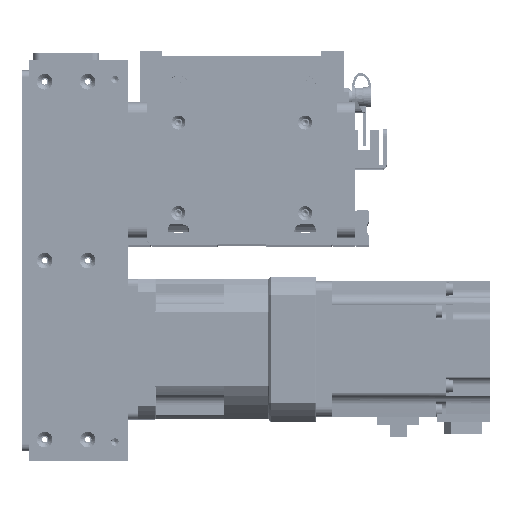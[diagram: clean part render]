
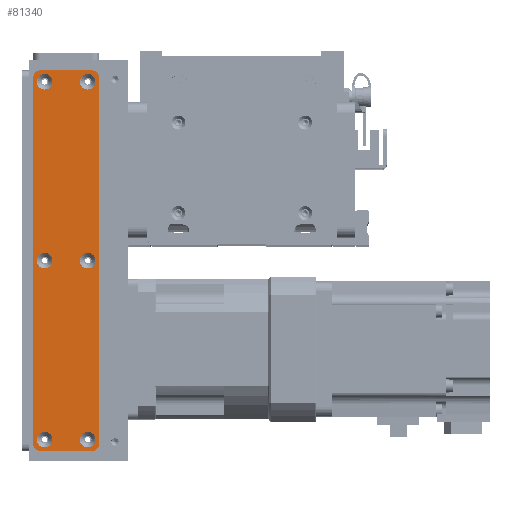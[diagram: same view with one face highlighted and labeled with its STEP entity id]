
A CAD part, top view. The second image highlights one B-rep face of the part: STEP entity #81340.
In plain terms, the highlighted planar face has unit normal (0, 0, 1).
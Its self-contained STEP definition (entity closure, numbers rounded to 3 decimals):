
#3017=FACE_BOUND('',#12189,.T.);
#3018=FACE_BOUND('',#12190,.T.);
#3019=FACE_BOUND('',#12191,.T.);
#3020=FACE_BOUND('',#12192,.T.);
#3021=FACE_BOUND('',#12193,.T.);
#3022=FACE_BOUND('',#12194,.T.);
#7247=FACE_OUTER_BOUND('',#12188,.T.);
#12188=EDGE_LOOP('',(#74109,#74110,#74111,#74112,#74113,#74114,#74115,#74116));
#12189=EDGE_LOOP('',(#74117));
#12190=EDGE_LOOP('',(#74118));
#12191=EDGE_LOOP('',(#74119));
#12192=EDGE_LOOP('',(#74120));
#12193=EDGE_LOOP('',(#74121));
#12194=EDGE_LOOP('',(#74122));
#14366=CIRCLE('',#88570,3.45);
#14369=CIRCLE('',#88575,3.45);
#14372=CIRCLE('',#88580,3.45);
#14375=CIRCLE('',#88585,3.45);
#14378=CIRCLE('',#88590,3.45);
#14381=CIRCLE('',#88595,3.45);
#14388=CIRCLE('',#88605,3.);
#14389=CIRCLE('',#88608,3.);
#14390=CIRCLE('',#88611,3.);
#14391=CIRCLE('',#88614,3.);
#23203=LINE('',#137914,#32024);
#23206=LINE('',#137922,#32027);
#23209=LINE('',#137930,#32030);
#23212=LINE('',#137937,#32033);
#32024=VECTOR('',#110628,10.);
#32027=VECTOR('',#110637,10.);
#32030=VECTOR('',#110646,10.);
#32033=VECTOR('',#110655,10.);
#39652=VERTEX_POINT('',#137830);
#39655=VERTEX_POINT('',#137840);
#39658=VERTEX_POINT('',#137850);
#39661=VERTEX_POINT('',#137860);
#39664=VERTEX_POINT('',#137870);
#39667=VERTEX_POINT('',#137880);
#39678=VERTEX_POINT('',#137907);
#39679=VERTEX_POINT('',#137909);
#39680=VERTEX_POINT('',#137913);
#39681=VERTEX_POINT('',#137917);
#39682=VERTEX_POINT('',#137921);
#39683=VERTEX_POINT('',#137925);
#39684=VERTEX_POINT('',#137929);
#39685=VERTEX_POINT('',#137933);
#51111=EDGE_CURVE('',#39652,#39652,#14366,.T.);
#51116=EDGE_CURVE('',#39655,#39655,#14369,.T.);
#51121=EDGE_CURVE('',#39658,#39658,#14372,.T.);
#51126=EDGE_CURVE('',#39661,#39661,#14375,.T.);
#51131=EDGE_CURVE('',#39664,#39664,#14378,.T.);
#51136=EDGE_CURVE('',#39667,#39667,#14381,.T.);
#51150=EDGE_CURVE('',#39679,#39678,#14388,.T.);
#51152=EDGE_CURVE('',#39680,#39679,#23203,.T.);
#51154=EDGE_CURVE('',#39681,#39680,#14389,.T.);
#51156=EDGE_CURVE('',#39682,#39681,#23206,.T.);
#51158=EDGE_CURVE('',#39683,#39682,#14390,.T.);
#51160=EDGE_CURVE('',#39684,#39683,#23209,.T.);
#51162=EDGE_CURVE('',#39685,#39684,#14391,.T.);
#51164=EDGE_CURVE('',#39678,#39685,#23212,.T.);
#74109=ORIENTED_EDGE('',*,*,#51164,.T.);
#74110=ORIENTED_EDGE('',*,*,#51162,.T.);
#74111=ORIENTED_EDGE('',*,*,#51160,.T.);
#74112=ORIENTED_EDGE('',*,*,#51158,.T.);
#74113=ORIENTED_EDGE('',*,*,#51156,.T.);
#74114=ORIENTED_EDGE('',*,*,#51154,.T.);
#74115=ORIENTED_EDGE('',*,*,#51152,.T.);
#74116=ORIENTED_EDGE('',*,*,#51150,.T.);
#74117=ORIENTED_EDGE('',*,*,#51111,.T.);
#74118=ORIENTED_EDGE('',*,*,#51116,.T.);
#74119=ORIENTED_EDGE('',*,*,#51121,.T.);
#74120=ORIENTED_EDGE('',*,*,#51126,.T.);
#74121=ORIENTED_EDGE('',*,*,#51131,.T.);
#74122=ORIENTED_EDGE('',*,*,#51136,.T.);
#77115=PLANE('',#88616);
#81340=ADVANCED_FACE('',(#7247,#3017,#3018,#3019,#3020,#3021,#3022),#77115,
 .T.);
#88570=AXIS2_PLACEMENT_3D('',#137831,#110536,#110537);
#88575=AXIS2_PLACEMENT_3D('',#137841,#110548,#110549);
#88580=AXIS2_PLACEMENT_3D('',#137851,#110560,#110561);
#88585=AXIS2_PLACEMENT_3D('',#137861,#110572,#110573);
#88590=AXIS2_PLACEMENT_3D('',#137871,#110584,#110585);
#88595=AXIS2_PLACEMENT_3D('',#137881,#110596,#110597);
#88605=AXIS2_PLACEMENT_3D('',#137910,#110623,#110624);
#88608=AXIS2_PLACEMENT_3D('',#137918,#110632,#110633);
#88611=AXIS2_PLACEMENT_3D('',#137926,#110641,#110642);
#88614=AXIS2_PLACEMENT_3D('',#137934,#110650,#110651);
#88616=AXIS2_PLACEMENT_3D('',#137938,#110656,#110657);
#110536=DIRECTION('center_axis',(0.,0.,-1.));
#110537=DIRECTION('ref_axis',(1.,0.,0.));
#110548=DIRECTION('center_axis',(0.,0.,-1.));
#110549=DIRECTION('ref_axis',(1.,0.,0.));
#110560=DIRECTION('center_axis',(0.,0.,-1.));
#110561=DIRECTION('ref_axis',(1.,0.,0.));
#110572=DIRECTION('center_axis',(0.,0.,-1.));
#110573=DIRECTION('ref_axis',(1.,0.,0.));
#110584=DIRECTION('center_axis',(0.,0.,-1.));
#110585=DIRECTION('ref_axis',(1.,0.,0.));
#110596=DIRECTION('center_axis',(0.,0.,-1.));
#110597=DIRECTION('ref_axis',(1.,0.,0.));
#110623=DIRECTION('center_axis',(0.,0.,1.));
#110624=DIRECTION('ref_axis',(-1.,0.,0.));
#110628=DIRECTION('',(0.,1.,0.));
#110632=DIRECTION('center_axis',(0.,0.,1.));
#110633=DIRECTION('ref_axis',(0.,1.,0.));
#110637=DIRECTION('',(1.,0.,0.));
#110641=DIRECTION('center_axis',(0.,0.,1.));
#110642=DIRECTION('ref_axis',(1.,0.,0.));
#110646=DIRECTION('',(0.,-1.,0.));
#110650=DIRECTION('center_axis',(0.,0.,1.));
#110651=DIRECTION('ref_axis',(0.,-1.,0.));
#110655=DIRECTION('',(-1.,0.,0.));
#110656=DIRECTION('center_axis',(0.,0.,1.));
#110657=DIRECTION('ref_axis',(1.,0.,0.));
#137830=CARTESIAN_POINT('',(-3.45,9.5,1.5));
#137831=CARTESIAN_POINT('Origin',(0.,9.5,1.5));
#137840=CARTESIAN_POINT('',(75.55,-9.5,1.5));
#137841=CARTESIAN_POINT('Origin',(79.,-9.5,1.5));
#137850=CARTESIAN_POINT('',(-82.45,9.5,1.5));
#137851=CARTESIAN_POINT('Origin',(-79.,9.5,1.5));
#137860=CARTESIAN_POINT('',(75.55,9.5,1.5));
#137861=CARTESIAN_POINT('Origin',(79.,9.5,1.5));
#137870=CARTESIAN_POINT('',(-82.45,-9.5,1.5));
#137871=CARTESIAN_POINT('Origin',(-79.,-9.5,1.5));
#137880=CARTESIAN_POINT('',(-3.45,-9.5,1.5));
#137881=CARTESIAN_POINT('Origin',(0.,-9.5,1.5));
#137907=CARTESIAN_POINT('',(81.,14.5,1.5));
#137909=CARTESIAN_POINT('',(84.,11.5,1.5));
#137910=CARTESIAN_POINT('Origin',(81.,11.5,1.5));
#137913=CARTESIAN_POINT('',(84.,-11.5,1.5));
#137914=CARTESIAN_POINT('',(84.,11.5,1.5));
#137917=CARTESIAN_POINT('',(81.,-14.5,1.5));
#137918=CARTESIAN_POINT('Origin',(81.,-11.5,1.5));
#137921=CARTESIAN_POINT('',(-81.,-14.5,1.5));
#137922=CARTESIAN_POINT('',(81.,-14.5,1.5));
#137925=CARTESIAN_POINT('',(-84.,-11.5,1.5));
#137926=CARTESIAN_POINT('Origin',(-81.,-11.5,1.5));
#137929=CARTESIAN_POINT('',(-84.,11.5,1.5));
#137930=CARTESIAN_POINT('',(-84.,-11.5,1.5));
#137933=CARTESIAN_POINT('',(-81.,14.5,1.5));
#137934=CARTESIAN_POINT('Origin',(-81.,11.5,1.5));
#137937=CARTESIAN_POINT('',(-81.,14.5,1.5));
#137938=CARTESIAN_POINT('Origin',(0.,0.,
1.5));
